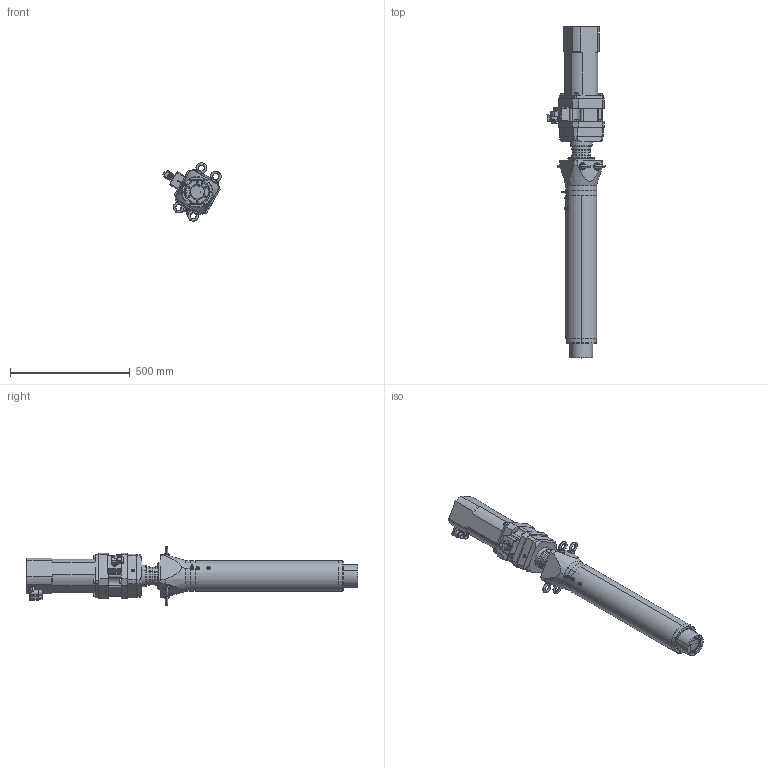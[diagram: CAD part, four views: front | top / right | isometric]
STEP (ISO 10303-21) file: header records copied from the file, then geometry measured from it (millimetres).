
FILE_DESCRIPTION (( 'STEP AP214' ), '1' );
FILE_NAME ('RLWIK030D-035-025SG0.STEP', '2023-04-05T14:05:03', ( '' ), ( '' ), 'SwSTEP 2.0', 'SolidWorks 2021', '' );
FILE_SCHEMA (( 'AUTOMOTIVE_DESIGN' ));
Length unit declared in the file: millimetre
Products named in the file (1): RLWIK030D-035-025SG0
Bounding box: 244.57 x 1387.5 x 244.54 mm (x, y, z)
Volume: 16187897.9 mm3; surface area: 1508440.4 mm2
Topology: 38 solids, 38 shells, 1401 faces, 3305 edges, 1993 vertices
Faces by surface type: cylinder 559, plane 478, cone 264, torus 80, bspline 18, sphere 2
Entity records: 57536 total; most frequent: CARTESIAN_POINT 9198, DIRECTION 7270, ORIENTED_EDGE 6338, EDGE_CURVE 3169, AXIS2_PLACEMENT_3D 2877, VERTEX_POINT 1993, EDGE_LOOP 1646, VECTOR 1516
